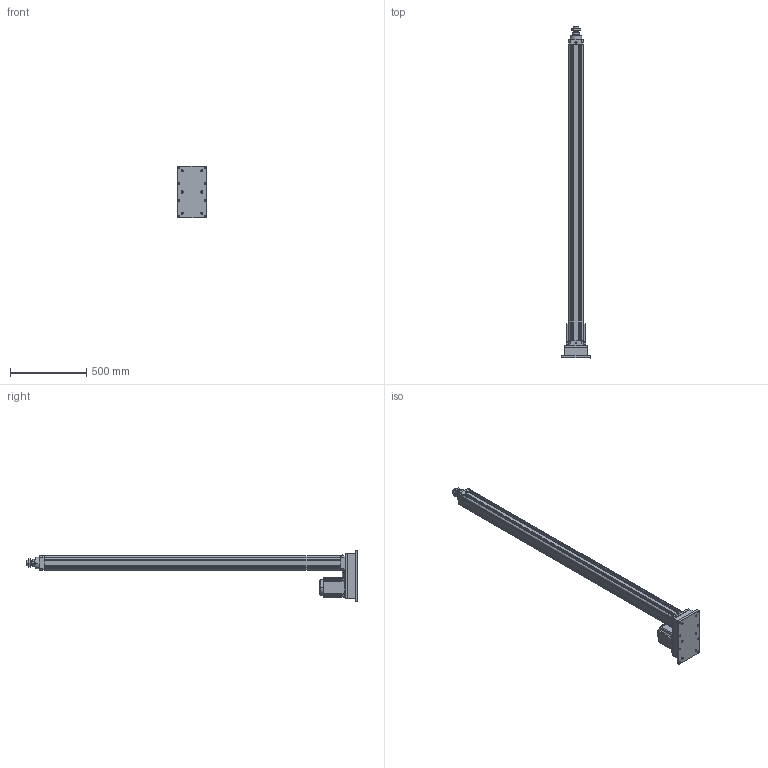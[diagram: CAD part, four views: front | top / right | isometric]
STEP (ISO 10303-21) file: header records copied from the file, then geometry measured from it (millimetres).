
FILE_DESCRIPTION((''),'2;1');
FILE_NAME('HE80-D-P_ASM','2020-04-23T',('ASUS20200'),(''),'CREO PARAMETRIC BY PTC INC, 2014190','CREO PARAMETRIC BY PTC INC, 2014190','');
FILE_SCHEMA(('CONFIG_CONTROL_DESIGN'));
Length unit declared in the file: millimetre
Products named in the file (25): HE80-D-P-001-X1; HE80-D-P-002-X1; HE80-D-P-003-X1; 30304J; YZ-M6X1; SLM-01; JDB506030; HE80-100-D-P-X1_ASM; HE80-P-010-X1-130N; 130ST-M10010; M10X25; HE80-P-009-X1-130N; HE80-P-013-X1-130N; TD-8; M8X35; M8X75; LM-M8-7-5; M10X1-25-40; LM-M10-30; LM-M10; HE80-D-P-005-X1; HE80-D-P-004-X1; HE80-D-P-008-X1; LGLM-M10-25; HE80-D-P_ASM
Assembly tree (45 placements, depth 3):
  HE80-D-P_ASM
    HE80-100-D-P-X1_ASM
      HE80-D-P-001-X1
      HE80-D-P-002-X1
      HE80-D-P-003-X1
      30304J  x2
      YZ-M6X1
      SLM-01
      JDB506030
    HE80-P-010-X1-130N
    130ST-M10010
    M10X25  x4
    HE80-P-009-X1-130N
    HE80-P-013-X1-130N
    TD-8  x4
    M8X35  x4
    M8X75  x6
    LM-M8-7-5  x4
    M10X1-25-40
    LM-M10-30
    LM-M10
    HE80-D-P-005-X1
    HE80-D-P-004-X1
    HE80-D-P-008-X1
    LGLM-M10-25  x4
Bounding box: 190 x 2174 x 340 mm (x, y, z)
Volume: 9695565.7 mm3; surface area: 2865464.5 mm2
Topology: 44 solids, 74 shells, 1972 faces, 4553 edges, 2769 vertices
Faces by surface type: plane 707, cone 604, cylinder 529, torus 102, sphere 26, bspline 4
Entity records: 43833 total; most frequent: CARTESIAN_POINT 8550, DIRECTION 7818, ORIENTED_EDGE 6744, EDGE_CURVE 3423, AXIS2_PLACEMENT_3D 3022, VERTEX_POINT 2082, VECTOR 1774, LINE 1774
